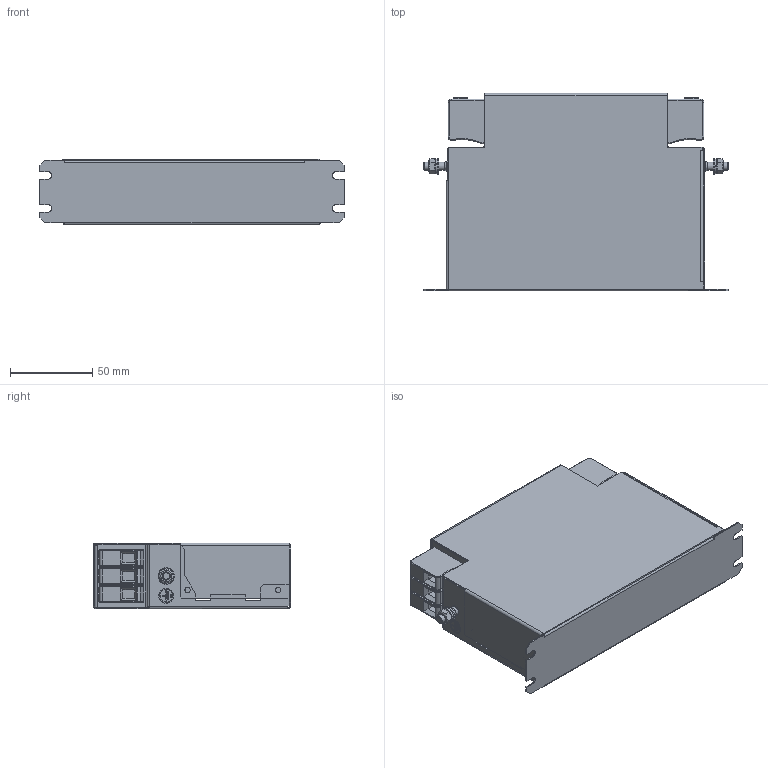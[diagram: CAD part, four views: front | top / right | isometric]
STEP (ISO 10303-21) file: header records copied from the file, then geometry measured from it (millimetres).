
FILE_DESCRIPTION(/* description */ ('raw material description'),/* implementation_level */ '2;1');
FILE_NAME(/* name */ 'C:\Users\Oliver.Volic\OneDrive - Schaffner EMV AG\Projekte\STEP\Wanda\FN3288-10-44.stp',/* time_stamp */ '2018-06-27T12:27:21+02:00',/* author */ ('Oliver.Volic'),/* organization */ ('Schaffner EMV AG'),/* preprocessor_version */ 'ST-DEVELOPER v16.5',/* originating_system */ 'Autodesk Inventor 2017',/* authorisation */ '');
FILE_SCHEMA (('AUTOMOTIVE_DESIGN { 1 0 10303 214 3 1 1 }'));
Length unit declared in the file: millimetre
Products named in the file (1): FN3288-10-44
Bounding box: 185 x 120.1 x 40 mm (x, y, z)
Volume: 90869.4 mm3; surface area: 131484.5 mm2
Topology: 1 solids, 2 shells, 1125 faces, 2820 edges, 1727 vertices
Faces by surface type: plane 700, cylinder 298, torus 60, sphere 36, bspline 17, cone 14
Full cylindrical faces by diameter (mm): 3.3 x13, 4.5 x6, 5 x4, 5.3 x2, 6.206 x2, 8 x2, 8.5 x6, 9 x2, 10 x2
Entity records: 33863 total; most frequent: CARTESIAN_POINT 6041, DIRECTION 5584, ORIENTED_EDGE 5382, EDGE_CURVE 2689, LINE 1898, VECTOR 1898, AXIS2_PLACEMENT_3D 1843, VERTEX_POINT 1709
